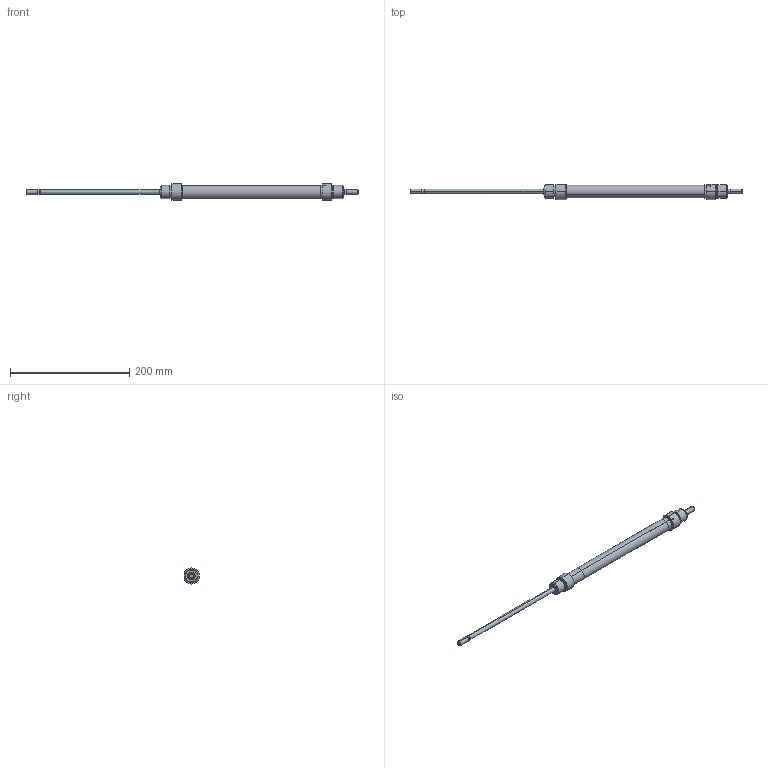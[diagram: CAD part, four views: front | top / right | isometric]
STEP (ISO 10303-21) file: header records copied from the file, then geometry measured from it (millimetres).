
FILE_DESCRIPTION (( 'STEP AP203' ), '1' );
FILE_NAME ('ML0200200A.step', '2012-10-17T16:38:24', ( '' ), ( '' ), 'SwSTEP 2.0', 'SolidWorks 2012', '' );
FILE_SCHEMA (( 'CONFIG_CONTROL_DESIGN' ));
Length unit declared in the file: millimetre
Products named in the file (1): ML0200200A
Bounding box: 556 x 25.2 x 27 mm (x, y, z)
Volume: 74618.4 mm3; surface area: 48557.8 mm2
Topology: 7 solids, 8 shells, 273 faces, 598 edges, 366 vertices
Faces by surface type: cylinder 106, plane 75, cone 56, torus 32, sphere 4
Entity records: 7921 total; most frequent: CARTESIAN_POINT 1742, DIRECTION 1404, ORIENTED_EDGE 1176, AXIS2_PLACEMENT_3D 594, EDGE_CURVE 588, VERTEX_POINT 360, CIRCLE 320, EDGE_LOOP 312
